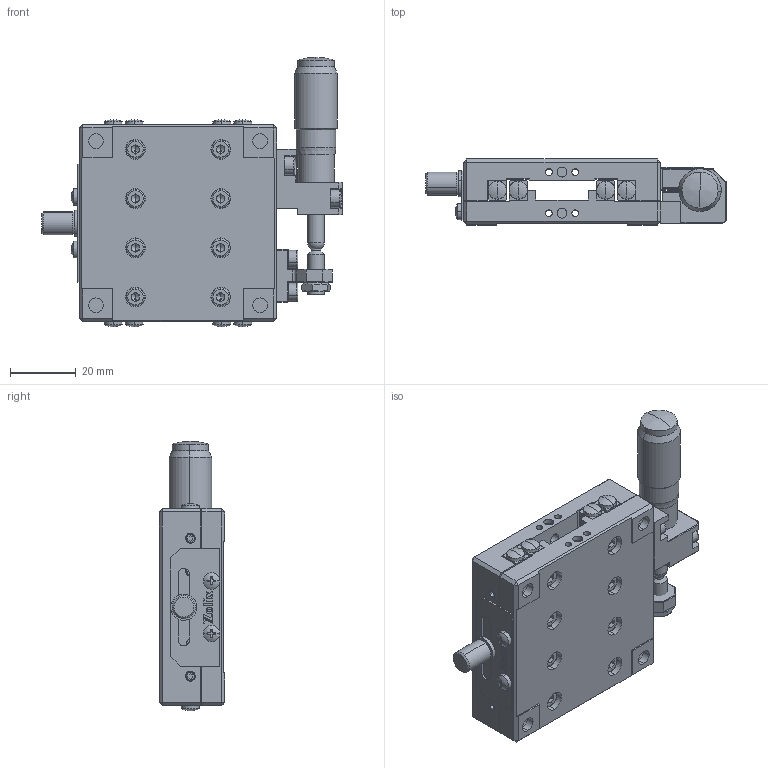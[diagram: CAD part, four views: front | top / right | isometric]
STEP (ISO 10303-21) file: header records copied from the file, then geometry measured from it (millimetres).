
FILE_DESCRIPTION (( 'STEP AP203' ), '1' );
FILE_NAME ('SK13A-60SR.step', '2019-05-08T07:37:15', ( '' ), ( '' ), 'SwSTEP 2.0', 'SolidWorks 2017', '' );
FILE_SCHEMA (( 'CONFIG_CONTROL_DESIGN' ));
Length unit declared in the file: millimetre
Products named in the file (1): SK13A-60SR
Bounding box: 91.5 x 20 x 82 mm (x, y, z)
Surface area: 33209.7 mm2 (no closed solid volume)
Topology: 0 solids, 43 shells, 878 faces, 2895 edges, 1912 vertices
Faces by surface type: plane 497, cylinder 218, cone 80, torus 52, bspline 16, sphere 15
Entity records: 31473 total; most frequent: CARTESIAN_POINT 6425, DIRECTION 5373, ORIENTED_EDGE 4674, EDGE_CURVE 2828, VERTEX_POINT 1912, AXIS2_PLACEMENT_3D 1808, LINE 1757, VECTOR 1757
